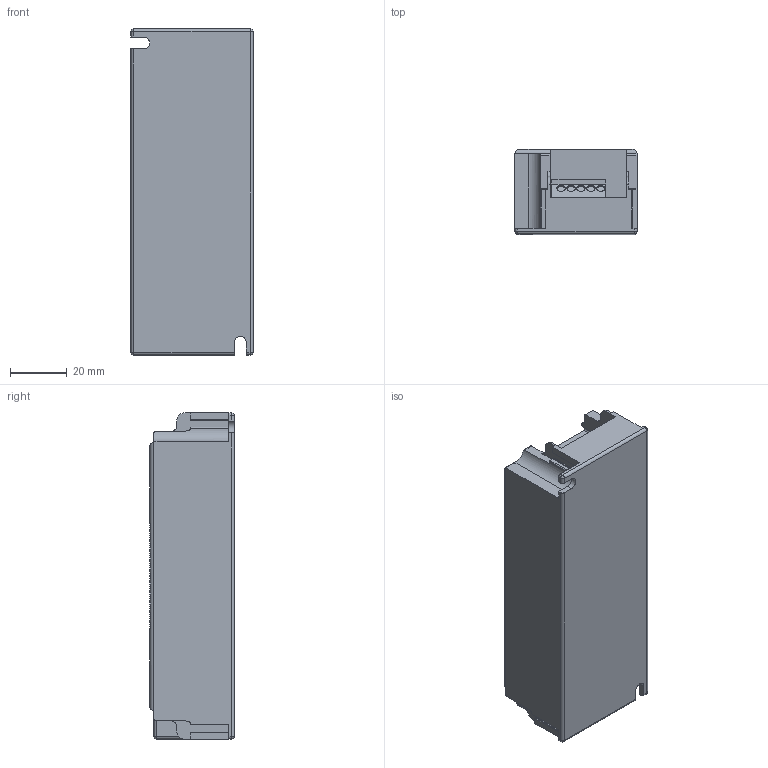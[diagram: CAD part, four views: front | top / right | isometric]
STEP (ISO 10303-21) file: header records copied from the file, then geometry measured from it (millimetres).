
FILE_DESCRIPTION((''),'2;1');
FILE_NAME('15010156Z_DATA_SC_115_VEGA_5-2','2016-04-04T',('emanuel.wild'),(''),'PRO/ENGINEER BY PARAMETRIC TECHNOLOGY CORPORATION, 2015200','PRO/ENGINEER BY PARAMETRIC TECHNOLOGY CORPORATION, 2015200','');
FILE_SCHEMA(('AUTOMOTIVE_DESIGN { 1 0 10303 214 1 1 1 1 }'));
Length unit declared in the file: millimetre
Products named in the file (1): 15010156Z_DATA_SC_115_VEGA_5-2
Bounding box: 43 x 29.8 x 115 mm (x, y, z)
Volume: 130067.7 mm3; surface area: 22138.4 mm2
Topology: 1 solids, 1 shells, 308 faces, 864 edges, 567 vertices
Faces by surface type: plane 186, cylinder 114, sphere 8
Entity records: 13283 total; most frequent: CARTESIAN_POINT 1846, ORIENTED_EDGE 1728, DIRECTION 1721, PRESENTATION_STYLE_ASSIGNMENT 889, STYLED_ITEM 865, CURVE_STYLE 864, EDGE_CURVE 864, VECTOR 589
